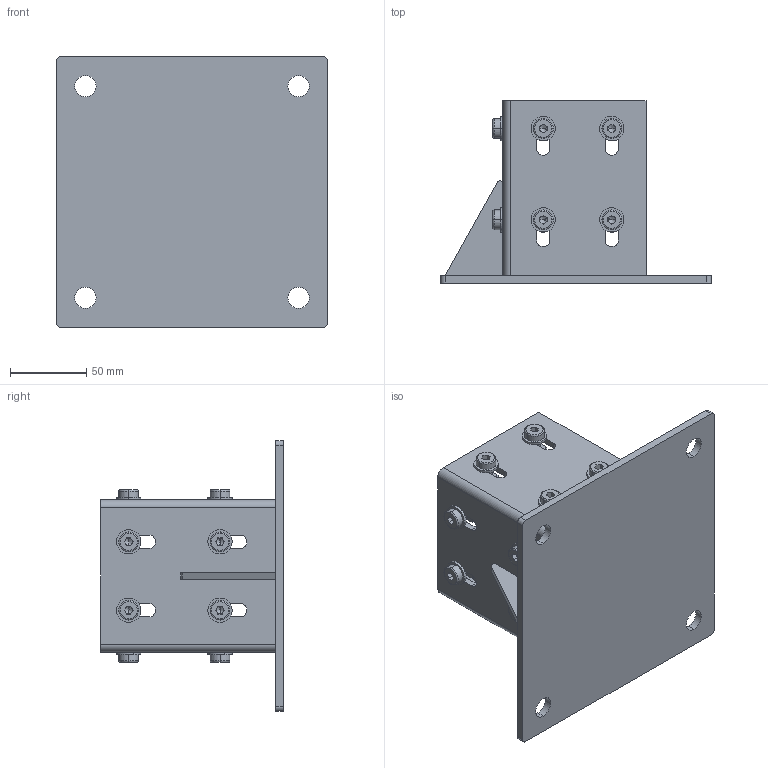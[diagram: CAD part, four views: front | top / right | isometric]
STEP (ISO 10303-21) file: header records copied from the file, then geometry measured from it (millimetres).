
FILE_DESCRIPTION (( 'STEP AP214' ), '1' );
FILE_NAME ('1.5047 Lattiakiinnike 90X90 C.STEP', '2025-09-16T11:06:42', ( '' ), ( '' ), 'SwSTEP 2.0', 'SolidWorks 2025', '' );
FILE_SCHEMA (( 'AUTOMOTIVE_DESIGN' ));
Length unit declared in the file: millimetre
Products named in the file (1): 1.5047 Lattiakiinnike 90X90 C
Bounding box: 178 x 120 x 178 mm (x, y, z)
Volume: 309111.9 mm3; surface area: 162095.3 mm2
Topology: 39 solids, 39 shells, 886 faces, 2120 edges, 1312 vertices
Faces by surface type: plane 521, cylinder 209, cone 108, torus 48
Entity records: 36769 total; most frequent: CARTESIAN_POINT 5987, DIRECTION 4312, ORIENTED_EDGE 4192, EDGE_CURVE 2096, AXIS2_PLACEMENT_3D 1557, VERTEX_POINT 1312, LINE 1198, VECTOR 1198
